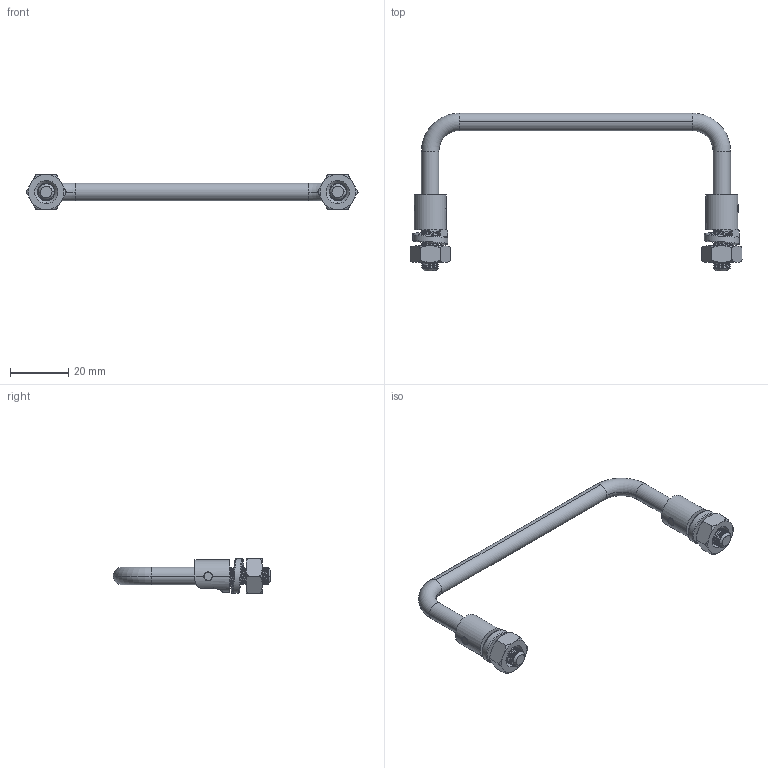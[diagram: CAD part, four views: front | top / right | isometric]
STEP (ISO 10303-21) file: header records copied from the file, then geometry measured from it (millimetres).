
FILE_DESCRIPTION (( 'STEP AP203' ), '1' );
FILE_NAME ('XG01-065-2-100.STEP', '2024-03-13T03:00:50', ( '' ), ( '' ), 'SwSTEP 2.0', 'SolidWorks 2020', '' );
FILE_SCHEMA (( 'CONFIG_CONTROL_DESIGN' ));
Length unit declared in the file: millimetre
Products named in the file (5): 1; XG01-065-2-100; 饜璃1; M6蹟譫; 饜璃2
Assembly tree (7 placements, depth 2):
  XG01-065-2-100
    1
    饜璃1  x2
    饜璃2  x2
    M6蹟譫  x2
Bounding box: 113.86 x 54.05 x 12 mm (x, y, z)
Volume: 7755.1 mm3; surface area: 6996.7 mm2
Topology: 11 solids, 11 shells, 268 faces, 750 edges, 484 vertices
Faces by surface type: cylinder 128, plane 46, torus 42, bspline 26, cone 16, sphere 10
Entity records: 10136 total; most frequent: CARTESIAN_POINT 6062, ORIENTED_EDGE 826, DIRECTION 652, EDGE_CURVE 413, VERTEX_POINT 267, AXIS2_PLACEMENT_3D 265, EDGE_LOOP 154, ADVANCED_FACE 151
